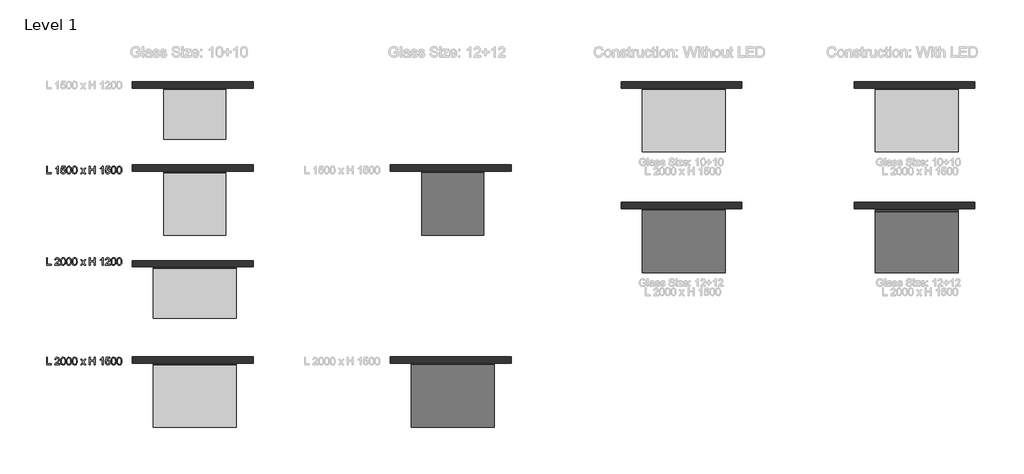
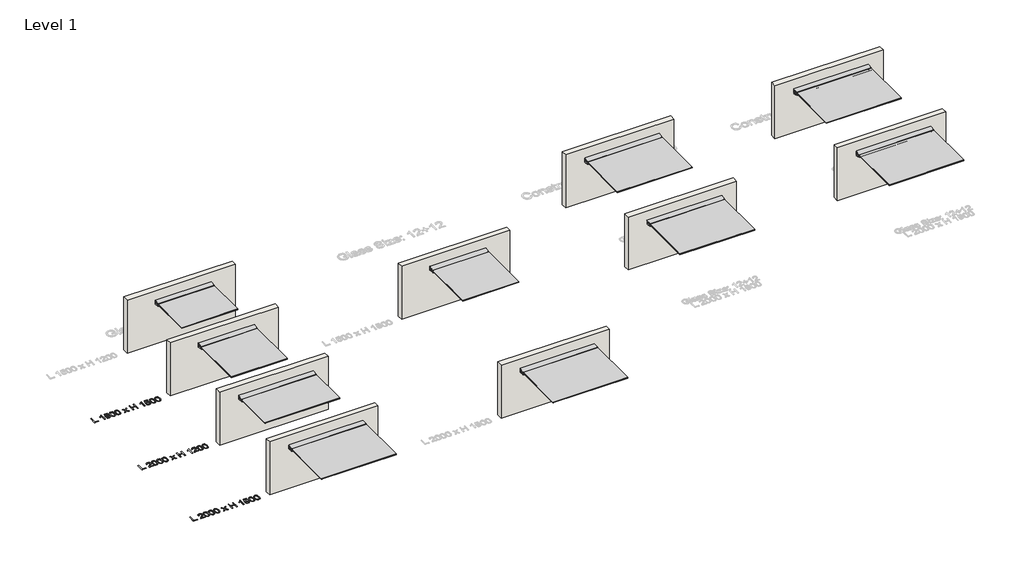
# One storey, part 1 of 7: 13 proxies, 10 walls.
"""IFC4 building model written with IfcOpenShell, lengths in millimetres."""

from ifc_helpers import new_model, si_unit, origin, origin_with_axes, place, context, project, spatial, polyline, outline, extrude, transform, mapped, element, save
from components import glass_10_10_9a443d2b, glass_10_10_5fec30e6, glass_10_10_ab900773, glass_10_10_d606f08f, glass_10_10_led_cbf4bd5c, glass_12_12_79b85a7c, glass_12_12_1987979f, glass_12_12_led_b576f13a

model = new_model("IFC4")

# Units and contexts
model_context = context("Model", 3, world=origin())
ifc_project = project(units=[si_unit("LENGTHUNIT", "METRE", prefix="MILLI")], contexts=[model_context])

# Site, building, storey
site = spatial("IfcSite", under=ifc_project)
building = spatial("IfcBuilding", under=site)
storey = spatial("IfcBuildingStorey", under=building, Name="Level 1", Elevation=0.0)

# Proxies
placement = place(None, origin())
element("IfcBuildingElementProxy", 1, Name="600mm Arial 3", ObjectType="600mm Arial 3", at=placement, inside=storey, context=model_context, shape_type="SweptSolid", body=[
    extrude(outline(polyline([(2272.1620309, -1499.2688788), (2272.1620309, -1318.4475205), (2294.7647007, -1318.4475205), (2294.7647007, -1476.666209), (2385.1753798, -1476.666209), (2385.1753798, -1499.2688788), (2272.1620309, -1499.2688788)])), origin_with_axes(), (0.0, 0.0, 1.0), 5.0),
    extrude(outline(polyline([(2557.5207369, -1499.2688788), (2534.9180672, -1499.2688788), (2534.9180672, -1358.3553594), (2513.507335, -1373.6077469), (2489.7127276, -1385.0194464), (2489.7127276, -1363.6528601), (2522.8441801, -1342.507003), (2542.9526099, -1318.4475205), (2557.5207369, -1318.4475205), (2557.5207369, -1499.2688788)])), origin_with_axes(), (0.0, 0.0, 1.0), 5.0),
    extrude(outline(polyline([(2611.2020777, -1451.2382055), (2633.8047475, -1448.4128718), (2637.9544564, -1461.9821992), (2645.194374, -1471.6998021), (2655.4913911, -1477.5436076), (2668.8123981, -1479.4915427), (2685.0139212, -1476.7820918), (2697.154027, -1468.6537392), (2704.7360749, -1456.0445838), (2707.2634243, -1439.8927248), (2704.8961036, -1424.6844831), (2697.7941417, -1413.0520544), (2685.9023562, -1405.6686628), (2669.1655648, -1403.2075322), (2649.32201, -1407.1365119), (2636.6300812, -1417.3342008), (2614.0274114, -1414.5088671), (2633.8047475, -1321.2728543), (2721.3900929, -1321.2728543), (2721.3900929, -1343.875524), (2652.081125, -1343.875524), (2642.3690403, -1393.6720309), (2658.5153811, -1383.8716546), (2675.434274, -1380.6048624), (2696.5580582, -1384.6552432), (2714.1060294, -1396.8063855), (2725.9260779, -1415.3255651), (2729.866094, -1438.4800579), (2726.3233904, -1461.0827277), (2715.6952796, -1480.4186054), (2695.3440476, -1496.6753107), (2668.7241064, -1502.0942125), (2646.5242674, -1498.6122094), (2628.8383405, -1488.1662002), (2616.7147894, -1471.9701953), (2611.2020777, -1451.2382055)])), origin_with_axes(), (0.0, 0.0, 1.0), 5.0),
    extrude(outline(polyline([(2749.6434301, -1410.3150124), (2751.3044173, -1381.3718964), (2756.2873789, -1358.2891406), (2764.5426509, -1340.7135783), (2776.0205692, -1328.2920427), (2790.8039071, -1320.9086511), (2808.9754383, -1318.4475205), (2835.3746503, -1324.2747713), (2845.8041048, -1331.3877697), (2853.6068819, -1341.0722632), (2864.2018834, -1367.8246419), (2868.3074465, -1410.3150124), (2866.6630139, -1439.0925814), (2861.7297164, -1462.1201549), (2853.5241085, -1479.7122719), (2842.0627449, -1492.1834716), (2827.2462976, -1499.6165273), (2808.9754383, -1502.0942125), (2785.4898517, -1497.7899932), (2767.6549326, -1484.8773351), (2759.7749002, -1471.2611028), (2754.1463057, -1454.2953049), (2749.6434301, -1410.3150124)]), holes=[polyline([(2772.2460999, -1410.2708665), (2774.8948502, -1445.824822), (2782.8411013, -1466.4023014), (2794.6721863, -1476.2192324), (2808.9754383, -1479.4915427), (2823.2786903, -1476.2081959), (2835.1097752, -1466.3581555), (2843.0560263, -1445.7696397), (2845.7047767, -1410.2708665), (2843.144318, -1375.5170544), (2835.4629419, -1354.7795464), (2823.6539299, -1344.4825293), (2808.7105632, -1341.0501903), (2794.5618217, -1344.0741803), (2783.1942681, -1353.1461503), (2774.9831419, -1375.1749242), (2772.2460999, -1410.2708665)])]), origin_with_axes(), (0.0, 0.0, 1.0), 5.0),
    extrude(outline(polyline([(2888.0847825, -1410.3150124), (2889.7457697, -1381.3718964), (2894.7287314, -1358.2891406), (2902.9840033, -1340.7135783), (2914.4619216, -1328.2920427), (2929.2452596, -1320.9086511), (2947.4167907, -1318.4475205), (2973.8160027, -1324.2747713), (2984.2454572, -1331.3877697), (2992.0482344, -1341.0722632), (3002.6432358, -1367.8246419), (3006.7487989, -1410.3150124), (3005.1043664, -1439.0925814), (3000.1710688, -1462.1201549), (2991.9654609, -1479.7122719), (2980.5040974, -1492.1834716), (2965.68765, -1499.6165273), (2947.4167907, -1502.0942125), (2923.9312041, -1497.7899932), (2906.096285, -1484.8773351), (2898.2162527, -1471.2611028), (2892.5876581, -1454.2953049), (2888.0847825, -1410.3150124)]), holes=[polyline([(2910.6874523, -1410.2708665), (2913.3362027, -1445.824822), (2921.2824538, -1466.4023014), (2933.1135387, -1476.2192324), (2947.4167907, -1479.4915427), (2961.7200427, -1476.2081959), (2973.5511276, -1466.3581555), (2981.4973787, -1445.7696397), (2984.1461291, -1410.2708665), (2981.5856704, -1375.5170544), (2973.9042944, -1354.7795464), (2962.0952823, -1344.4825293), (2947.1519157, -1341.0501903), (2933.0031741, -1344.0741803), (2921.6356205, -1353.1461503), (2913.4244944, -1375.1749242), (2910.6874523, -1410.2708665)])]), origin_with_axes(), (0.0, 0.0, 1.0), 5.0),
    extrude(outline(polyline([(3088.6834769, -1499.2688788), (3136.9790252, -1432.4762238), (3091.5088106, -1366.4781938), (3118.614356, -1366.4781938), (3140.5548382, -1398.307344), (3150.8408188, -1413.2727836), (3159.7582783, -1401.0002402), (3184.7448234, -1366.4781938), (3211.9386605, -1366.4781938), (3164.1728623, -1432.5203696), (3210.1728269, -1499.2688788), (3183.0231357, -1499.2688788), (3155.2995485, -1459.0961649), (3150.2669228, -1451.7238097), (3115.8773139, -1499.2688788), (3088.6834769, -1499.2688788)])), origin_with_axes(), (0.0, 0.0, 1.0), 5.0),
    extrude(outline(polyline([(3303.4088398, -1499.2688788), (3303.4088398, -1318.4475205), (3326.0115096, -1318.4475205), (3326.0115096, -1391.9061973), (3422.0728562, -1391.9061973), (3422.0728562, -1318.4475205), (3444.6755259, -1318.4475205), (3444.6755259, -1499.2688788), (3422.0728562, -1499.2688788), (3422.0728562, -1414.5088671), (3326.0115096, -1414.5088671), (3326.0115096, -1499.2688788), (3303.4088398, -1499.2688788)])), origin_with_axes(), (0.0, 0.0, 1.0), 5.0),
    extrude(outline(polyline([(3631.1475517, -1499.2688788), (3608.5448819, -1499.2688788), (3608.5448819, -1358.3553594), (3587.1341498, -1373.6077469), (3563.3395423, -1385.0194464), (3563.3395423, -1363.6528601), (3596.4709948, -1342.507003), (3616.5794247, -1318.4475205), (3631.1475517, -1318.4475205), (3631.1475517, -1499.2688788)])), origin_with_axes(), (0.0, 0.0, 1.0), 5.0),
    extrude(outline(polyline([(3684.8288924, -1451.2382055), (3707.4315622, -1448.4128718), (3711.5812711, -1461.9821992), (3718.8211888, -1471.6998021), (3729.1182058, -1477.5436076), (3742.4392128, -1479.4915427), (3758.6407359, -1476.7820918), (3770.7808418, -1468.6537392), (3778.3628897, -1456.0445838), (3780.890239, -1439.8927248), (3778.5229183, -1424.6844831), (3771.4209564, -1413.0520544), (3759.5291709, -1405.6686628), (3742.7923796, -1403.2075322), (3722.9488247, -1407.1365119), (3710.2568959, -1417.3342008), (3687.6542261, -1414.5088671), (3707.4315622, -1321.2728543), (3795.0169076, -1321.2728543), (3795.0169076, -1343.875524), (3725.7079397, -1343.875524), (3715.995855, -1393.6720309), (3732.1421958, -1383.8716546), (3749.0610888, -1380.6048624), (3770.1848729, -1384.6552432), (3787.7328441, -1396.8063855), (3799.5528926, -1415.3255651), (3803.4929088, -1438.4800579), (3799.9502051, -1461.0827277), (3789.3220943, -1480.4186054), (3768.9708623, -1496.6753107), (3742.3509212, -1502.0942125), (3720.1510822, -1498.6122094), (3702.4651552, -1488.1662002), (3690.3416041, -1471.9701953), (3684.8288924, -1451.2382055)])), origin_with_axes(), (0.0, 0.0, 1.0), 5.0),
    extrude(outline(polyline([(3823.2702448, -1410.3150124), (3824.931232, -1381.3718964), (3829.9141937, -1358.2891406), (3838.1694656, -1340.7135783), (3849.6473839, -1328.2920427), (3864.4307219, -1320.9086511), (3882.602253, -1318.4475205), (3909.001465, -1324.2747713), (3919.4309195, -1331.3877697), (3927.2336967, -1341.0722632), (3937.8286981, -1367.8246419), (3941.9342612, -1410.3150124), (3940.2898287, -1439.0925814), (3935.3565311, -1462.1201549), (3927.1509232, -1479.7122719), (3915.6895597, -1492.1834716), (3900.8731123, -1499.6165273), (3882.602253, -1502.0942125), (3859.1166664, -1497.7899932), (3841.2817473, -1484.8773351), (3833.401715, -1471.2611028), (3827.7731204, -1454.2953049), (3823.2702448, -1410.3150124)]), holes=[polyline([(3845.8729146, -1410.2708665), (3848.521665, -1445.824822), (3856.4679161, -1466.4023014), (3868.299001, -1476.2192324), (3882.602253, -1479.4915427), (3896.905505, -1476.2081959), (3908.7365899, -1466.3581555), (3916.682841, -1445.7696397), (3919.3315914, -1410.2708665), (3916.7711327, -1375.5170544), (3909.0897567, -1354.7795464), (3897.2807446, -1344.4825293), (3882.337378, -1341.0501903), (3868.1886364, -1344.0741803), (3856.8210828, -1353.1461503), (3848.6099567, -1375.1749242), (3845.8729146, -1410.2708665)])]), origin_with_axes(), (0.0, 0.0, 1.0), 5.0),
    extrude(outline(polyline([(3961.7115972, -1410.3150124), (3963.3725845, -1381.3718964), (3968.3555461, -1358.2891406), (3976.6108181, -1340.7135783), (3988.0887363, -1328.2920427), (4002.8720743, -1320.9086511), (4021.0436054, -1318.4475205), (4047.4428174, -1324.2747713), (4057.872272, -1331.3877697), (4065.6750491, -1341.0722632), (4076.2700505, -1367.8246419), (4080.3756136, -1410.3150124), (4078.7311811, -1439.0925814), (4073.7978835, -1462.1201549), (4065.5922756, -1479.7122719), (4054.1309121, -1492.1834716), (4039.3144647, -1499.6165273), (4021.0436054, -1502.0942125), (3997.5580189, -1497.7899932), (3979.7230997, -1484.8773351), (3971.8430674, -1471.2611028), (3966.2144729, -1454.2953049), (3961.7115972, -1410.3150124)]), holes=[polyline([(3984.314267, -1410.2708665), (3986.9630174, -1445.824822), (3994.9092685, -1466.4023014), (4006.7403535, -1476.2192324), (4021.0436054, -1479.4915427), (4035.3468574, -1476.2081959), (4047.1779424, -1466.3581555), (4055.1241935, -1445.7696397), (4057.7729438, -1410.2708665), (4055.2124851, -1375.5170544), (4047.5311091, -1354.7795464), (4035.722097, -1344.4825293), (4020.7787304, -1341.0501903), (4006.6299889, -1344.0741803), (3995.2624352, -1353.1461503), (3987.0513091, -1375.1749242), (3984.314267, -1410.2708665)])]), origin_with_axes(), (0.0, 0.0, 1.0), 5.0),
])
element("IfcBuildingElementProxy", 2, Name="600mm Arial 3", ObjectType="600mm Arial 3", at=placement, inside=storey, context=model_context, shape_type="SweptSolid", body=[
    extrude(outline(polyline([(2272.1620309, -3699.2687729), (2272.1620309, -3518.4474146), (2294.7647007, -3518.4474146), (2294.7647007, -3676.6661031), (2385.1753798, -3676.6661031), (2385.1753798, -3699.2687729), (2272.1620309, -3699.2687729)])), origin_with_axes(), (0.0, 0.0, 1.0), 5.0),
    extrude(outline(polyline([(2588.5994079, -3676.6661031), (2588.5994079, -3699.2687729), (2469.9353915, -3699.2687729), (2472.3634127, -3683.6852916), (2486.1148417, -3659.6920278), (2514.4343977, -3633.4914721), (2553.4372468, -3595.8350711), (2560.737865, -3582.8561943), (2563.1714044, -3570.2304842), (2560.8703025, -3558.9125947), (2553.9669969, -3549.5040126), (2543.3554407, -3543.1635664), (2529.9295873, -3541.0500844), (2515.8305098, -3543.1139024), (2504.8768234, -3549.3053564), (2497.8079709, -3559.1388421), (2495.363395, -3572.1287553), (2472.7607252, -3569.3034216), (2478.2403276, -3547.4401946), (2490.0879672, -3531.4704372), (2507.6856025, -3521.7031703), (2530.4151915, -3518.4474146), (2553.3103275, -3522.0673734), (2570.8748534, -3532.9272499), (2582.049269, -3549.1508459), (2585.7740742, -3568.8619632), (2581.7568028, -3590.2947683), (2568.4026864, -3612.4559796), (2536.0217131, -3643.424286), (2510.0198137, -3665.1661119), (2499.8221248, -3676.6661031), (2588.5994079, -3676.6661031)])), origin_with_axes(), (0.0, 0.0, 1.0), 5.0),
    extrude(outline(polyline([(2611.2020777, -3610.3149064), (2612.8630649, -3581.3717905), (2617.8460265, -3558.2890347), (2626.1012985, -3540.7134724), (2637.5792167, -3528.2919368), (2652.3625547, -3520.9085451), (2670.5340859, -3518.4474146), (2696.9332978, -3524.2746654), (2707.3627524, -3531.3876638), (2715.1655295, -3541.0721573), (2725.760531, -3567.824536), (2729.866094, -3610.3149064), (2728.2216615, -3639.0924755), (2723.288364, -3662.120049), (2715.0827561, -3679.712166), (2703.6213925, -3692.1833656), (2688.8049451, -3699.6164214), (2670.5340859, -3702.0941066), (2647.0484993, -3697.7898873), (2629.2135802, -3684.8772292), (2621.3335478, -3671.2609969), (2615.7049533, -3654.295199), (2611.2020777, -3610.3149064)]), holes=[polyline([(2633.8047475, -3610.2707606), (2636.4534978, -3645.824716), (2644.3997489, -3666.4021954), (2656.2308339, -3676.2191265), (2670.5340859, -3679.4914368), (2684.8373378, -3676.20809), (2696.6684228, -3666.3580496), (2704.6146739, -3645.7695337), (2707.2634243, -3610.2707606), (2704.7029656, -3575.5169485), (2697.0215895, -3554.7794404), (2685.2125775, -3544.4824234), (2670.2692108, -3541.0500844), (2656.1204693, -3544.0740744), (2644.7529156, -3553.1460444), (2636.5417895, -3575.1748183), (2633.8047475, -3610.2707606)])]), origin_with_axes(), (0.0, 0.0, 1.0), 5.0),
    extrude(outline(polyline([(2749.6434301, -3610.3149064), (2751.3044173, -3581.3717905), (2756.2873789, -3558.2890347), (2764.5426509, -3540.7134724), (2776.0205692, -3528.2919368), (2790.8039071, -3520.9085451), (2808.9754383, -3518.4474146), (2835.3746503, -3524.2746654), (2845.8041048, -3531.3876638), (2853.6068819, -3541.0721573), (2864.2018834, -3567.824536), (2868.3074465, -3610.3149064), (2866.6630139, -3639.0924755), (2861.7297164, -3662.120049), (2853.5241085, -3679.712166), (2842.0627449, -3692.1833656), (2827.2462976, -3699.6164214), (2808.9754383, -3702.0941066), (2785.4898517, -3697.7898873), (2767.6549326, -3684.8772292), (2759.7749002, -3671.2609969), (2754.1463057, -3654.295199), (2749.6434301, -3610.3149064)]), holes=[polyline([(2772.2460999, -3610.2707606), (2774.8948502, -3645.824716), (2782.8411013, -3666.4021954), (2794.6721863, -3676.2191265), (2808.9754383, -3679.4914368), (2823.2786903, -3676.20809), (2835.1097752, -3666.3580496), (2843.0560263, -3645.7695337), (2845.7047767, -3610.2707606), (2843.144318, -3575.5169485), (2835.4629419, -3554.7794404), (2823.6539299, -3544.4824234), (2808.7105632, -3541.0500844), (2794.5618217, -3544.0740744), (2783.1942681, -3553.1460444), (2774.9831419, -3575.1748183), (2772.2460999, -3610.2707606)])]), origin_with_axes(), (0.0, 0.0, 1.0), 5.0),
    extrude(outline(polyline([(2888.0847825, -3610.3149064), (2889.7457697, -3581.3717905), (2894.7287314, -3558.2890347), (2902.9840033, -3540.7134724), (2914.4619216, -3528.2919368), (2929.2452596, -3520.9085451), (2947.4167907, -3518.4474146), (2973.8160027, -3524.2746654), (2984.2454572, -3531.3876638), (2992.0482344, -3541.0721573), (3002.6432358, -3567.824536), (3006.7487989, -3610.3149064), (3005.1043664, -3639.0924755), (3000.1710688, -3662.120049), (2991.9654609, -3679.712166), (2980.5040974, -3692.1833656), (2965.68765, -3699.6164214), (2947.4167907, -3702.0941066), (2923.9312041, -3697.7898873), (2906.096285, -3684.8772292), (2898.2162527, -3671.2609969), (2892.5876581, -3654.295199), (2888.0847825, -3610.3149064)]), holes=[polyline([(2910.6874523, -3610.2707606), (2913.3362027, -3645.824716), (2921.2824538, -3666.4021954), (2933.1135387, -3676.2191265), (2947.4167907, -3679.4914368), (2961.7200427, -3676.20809), (2973.5511276, -3666.3580496), (2981.4973787, -3645.7695337), (2984.1461291, -3610.2707606), (2981.5856704, -3575.5169485), (2973.9042944, -3554.7794404), (2962.0952823, -3544.4824234), (2947.1519157, -3541.0500844), (2933.0031741, -3544.0740744), (2921.6356205, -3553.1460444), (2913.4244944, -3575.1748183), (2910.6874523, -3610.2707606)])]), origin_with_axes(), (0.0, 0.0, 1.0), 5.0),
    extrude(outline(polyline([(3088.6834769, -3699.2687729), (3136.9790252, -3632.4761178), (3091.5088106, -3566.4780879), (3118.614356, -3566.4780879), (3140.5548382, -3598.3072381), (3150.8408188, -3613.2726777), (3159.7582783, -3601.0001343), (3184.7448234, -3566.4780879), (3211.9386605, -3566.4780879), (3164.1728623, -3632.5202637), (3210.1728269, -3699.2687729), (3183.0231357, -3699.2687729), (3155.2995485, -3659.096059), (3150.2669228, -3651.7237038), (3115.8773139, -3699.2687729), (3088.6834769, -3699.2687729)])), origin_with_axes(), (0.0, 0.0, 1.0), 5.0),
    extrude(outline(polyline([(3303.4088398, -3699.2687729), (3303.4088398, -3518.4474146), (3326.0115096, -3518.4474146), (3326.0115096, -3591.9060914), (3422.0728562, -3591.9060914), (3422.0728562, -3518.4474146), (3444.6755259, -3518.4474146), (3444.6755259, -3699.2687729), (3422.0728562, -3699.2687729), (3422.0728562, -3614.5087612), (3326.0115096, -3614.5087612), (3326.0115096, -3699.2687729), (3303.4088398, -3699.2687729)])), origin_with_axes(), (0.0, 0.0, 1.0), 5.0),
    extrude(outline(polyline([(3631.1475517, -3699.2687729), (3608.5448819, -3699.2687729), (3608.5448819, -3558.3552534), (3587.1341498, -3573.607641), (3563.3395423, -3585.0193404), (3563.3395423, -3563.6527542), (3596.4709948, -3542.5068971), (3616.5794247, -3518.4474146), (3631.1475517, -3518.4474146), (3631.1475517, -3699.2687729)])), origin_with_axes(), (0.0, 0.0, 1.0), 5.0),
    extrude(outline(polyline([(3800.667575, -3676.6661031), (3800.667575, -3699.2687729), (3682.0035587, -3699.2687729), (3684.4315798, -3683.6852916), (3698.1830088, -3659.6920278), (3726.5025648, -3633.4914721), (3765.5054139, -3595.8350711), (3772.8060321, -3582.8561943), (3775.2395715, -3570.2304842), (3772.9384697, -3558.9125947), (3766.035164, -3549.5040126), (3755.4236079, -3543.1635664), (3741.9977544, -3541.0500844), (3727.898677, -3543.1139024), (3716.9449906, -3549.3053564), (3709.876138, -3559.1388421), (3707.4315622, -3572.1287553), (3684.8288924, -3569.3034216), (3690.3084947, -3547.4401946), (3702.1561344, -3531.4704372), (3719.7537696, -3521.7031703), (3742.4833587, -3518.4474146), (3765.3784947, -3522.0673734), (3782.9430205, -3532.9272499), (3794.1174361, -3549.1508459), (3797.8422413, -3568.8619632), (3793.8249699, -3590.2947683), (3780.4708535, -3612.4559796), (3748.0898803, -3643.424286), (3722.0879809, -3665.1661119), (3711.890292, -3676.6661031), (3800.667575, -3676.6661031)])), origin_with_axes(), (0.0, 0.0, 1.0), 5.0),
    extrude(outline(polyline([(3823.2702448, -3610.3149064), (3824.931232, -3581.3717905), (3829.9141937, -3558.2890347), (3838.1694656, -3540.7134724), (3849.6473839, -3528.2919368), (3864.4307219, -3520.9085451), (3882.602253, -3518.4474146), (3909.001465, -3524.2746654), (3919.4309195, -3531.3876638), (3927.2336967, -3541.0721573), (3937.8286981, -3567.824536), (3941.9342612, -3610.3149064), (3940.2898287, -3639.0924755), (3935.3565311, -3662.120049), (3927.1509232, -3679.712166), (3915.6895597, -3692.1833656), (3900.8731123, -3699.6164214), (3882.602253, -3702.0941066), (3859.1166664, -3697.7898873), (3841.2817473, -3684.8772292), (3833.401715, -3671.2609969), (3827.7731204, -3654.295199), (3823.2702448, -3610.3149064)]), holes=[polyline([(3845.8729146, -3610.2707606), (3848.521665, -3645.824716), (3856.4679161, -3666.4021954), (3868.299001, -3676.2191265), (3882.602253, -3679.4914368), (3896.905505, -3676.20809), (3908.7365899, -3666.3580496), (3916.682841, -3645.7695337), (3919.3315914, -3610.2707606), (3916.7711327, -3575.5169485), (3909.0897567, -3554.7794404), (3897.2807446, -3544.4824234), (3882.337378, -3541.0500844), (3868.1886364, -3544.0740744), (3856.8210828, -3553.1460444), (3848.6099567, -3575.1748183), (3845.8729146, -3610.2707606)])]), origin_with_axes(), (0.0, 0.0, 1.0), 5.0),
    extrude(outline(polyline([(3961.7115972, -3610.3149064), (3963.3725845, -3581.3717905), (3968.3555461, -3558.2890347), (3976.6108181, -3540.7134724), (3988.0887363, -3528.2919368), (4002.8720743, -3520.9085451), (4021.0436054, -3518.4474146), (4047.4428174, -3524.2746654), (4057.872272, -3531.3876638), (4065.6750491, -3541.0721573), (4076.2700505, -3567.824536), (4080.3756136, -3610.3149064), (4078.7311811, -3639.0924755), (4073.7978835, -3662.120049), (4065.5922756, -3679.712166), (4054.1309121, -3692.1833656), (4039.3144647, -3699.6164214), (4021.0436054, -3702.0941066), (3997.5580189, -3697.7898873), (3979.7230997, -3684.8772292), (3971.8430674, -3671.2609969), (3966.2144729, -3654.295199), (3961.7115972, -3610.3149064)]), holes=[polyline([(3984.314267, -3610.2707606), (3986.9630174, -3645.824716), (3994.9092685, -3666.4021954), (4006.7403535, -3676.2191265), (4021.0436054, -3679.4914368), (4035.3468574, -3676.20809), (4047.1779424, -3666.3580496), (4055.1241935, -3645.7695337), (4057.7729438, -3610.2707606), (4055.2124851, -3575.5169485), (4047.5311091, -3554.7794404), (4035.722097, -3544.4824234), (4020.7787304, -3541.0500844), (4006.6299889, -3544.0740744), (3995.2624352, -3553.1460444), (3987.0513091, -3575.1748183), (3984.314267, -3610.2707606)])]), origin_with_axes(), (0.0, 0.0, 1.0), 5.0),
])
element("IfcBuildingElementProxy", 3, Name="600mm Arial 3", ObjectType="600mm Arial 3", at=placement, inside=storey, context=model_context, shape_type="SweptSolid", body=[
    extrude(outline(polyline([(2272.1620309, -6094.2687729), (2272.1620309, -5913.4474146), (2294.7647007, -5913.4474146), (2294.7647007, -6071.6661031), (2385.1753798, -6071.6661031), (2385.1753798, -6094.2687729), (2272.1620309, -6094.2687729)])), origin_with_axes(), (0.0, 0.0, 1.0), 5.0),
    extrude(outline(polyline([(2588.5994079, -6071.6661031), (2588.5994079, -6094.2687729), (2469.9353915, -6094.2687729), (2472.3634127, -6078.6852916), (2486.1148417, -6054.6920278), (2514.4343977, -6028.4914721), (2553.4372468, -5990.8350711), (2560.737865, -5977.8561943), (2563.1714044, -5965.2304842), (2560.8703025, -5953.9125947), (2553.9669969, -5944.5040126), (2543.3554407, -5938.1635664), (2529.9295873, -5936.0500844), (2515.8305098, -5938.1139024), (2504.8768234, -5944.3053564), (2497.8079709, -5954.1388421), (2495.363395, -5967.1287553), (2472.7607252, -5964.3034216), (2478.2403276, -5942.4401946), (2490.0879672, -5926.4704372), (2507.6856025, -5916.7031703), (2530.4151915, -5913.4474146), (2553.3103275, -5917.0673734), (2570.8748534, -5927.9272499), (2582.049269, -5944.1508459), (2585.7740742, -5963.8619632), (2581.7568028, -5985.2947683), (2568.4026864, -6007.4559796), (2536.0217131, -6038.424286), (2510.0198137, -6060.1661119), (2499.8221248, -6071.6661031), (2588.5994079, -6071.6661031)])), origin_with_axes(), (0.0, 0.0, 1.0), 5.0),
    extrude(outline(polyline([(2611.2020777, -6005.3149064), (2612.8630649, -5976.3717905), (2617.8460265, -5953.2890347), (2626.1012985, -5935.7134724), (2637.5792167, -5923.2919368), (2652.3625547, -5915.9085451), (2670.5340859, -5913.4474146), (2696.9332978, -5919.2746654), (2707.3627524, -5926.3876638), (2715.1655295, -5936.0721573), (2725.760531, -5962.824536), (2729.866094, -6005.3149064), (2728.2216615, -6034.0924755), (2723.288364, -6057.120049), (2715.0827561, -6074.712166), (2703.6213925, -6087.1833656), (2688.8049451, -6094.6164214), (2670.5340859, -6097.0941066), (2647.0484993, -6092.7898873), (2629.2135802, -6079.8772292), (2621.3335478, -6066.2609969), (2615.7049533, -6049.295199), (2611.2020777, -6005.3149064)]), holes=[polyline([(2633.8047475, -6005.2707606), (2636.4534978, -6040.824716), (2644.3997489, -6061.4021954), (2656.2308339, -6071.2191265), (2670.5340859, -6074.4914368), (2684.8373378, -6071.20809), (2696.6684228, -6061.3580496), (2704.6146739, -6040.7695337), (2707.2634243, -6005.2707606), (2704.7029656, -5970.5169485), (2697.0215895, -5949.7794404), (2685.2125775, -5939.4824234), (2670.2692108, -5936.0500844), (2656.1204693, -5939.0740744), (2644.7529156, -5948.1460444), (2636.5417895, -5970.1748183), (2633.8047475, -6005.2707606)])]), origin_with_axes(), (0.0, 0.0, 1.0), 5.0),
    extrude(outline(polyline([(2749.6434301, -6005.3149064), (2751.3044173, -5976.3717905), (2756.2873789, -5953.2890347), (2764.5426509, -5935.7134724), (2776.0205692, -5923.2919368), (2790.8039071, -5915.9085451), (2808.9754383, -5913.4474146), (2835.3746503, -5919.2746654), (2845.8041048, -5926.3876638), (2853.6068819, -5936.0721573), (2864.2018834, -5962.824536), (2868.3074465, -6005.3149064), (2866.6630139, -6034.0924755), (2861.7297164, -6057.120049), (2853.5241085, -6074.712166), (2842.0627449, -6087.1833656), (2827.2462976, -6094.6164214), (2808.9754383, -6097.0941066), (2785.4898517, -6092.7898873), (2767.6549326, -6079.8772292), (2759.7749002, -6066.2609969), (2754.1463057, -6049.295199), (2749.6434301, -6005.3149064)]), holes=[polyline([(2772.2460999, -6005.2707606), (2774.8948502, -6040.824716), (2782.8411013, -6061.4021954), (2794.6721863, -6071.2191265), (2808.9754383, -6074.4914368), (2823.2786903, -6071.20809), (2835.1097752, -6061.3580496), (2843.0560263, -6040.7695337), (2845.7047767, -6005.2707606), (2843.144318, -5970.5169485), (2835.4629419, -5949.7794404), (2823.6539299, -5939.4824234), (2808.7105632, -5936.0500844), (2794.5618217, -5939.0740744), (2783.1942681, -5948.1460444), (2774.9831419, -5970.1748183), (2772.2460999, -6005.2707606)])]), origin_with_axes(), (0.0, 0.0, 1.0), 5.0),
    extrude(outline(polyline([(2888.0847825, -6005.3149064), (2889.7457697, -5976.3717905), (2894.7287314, -5953.2890347), (2902.9840033, -5935.7134724), (2914.4619216, -5923.2919368), (2929.2452596, -5915.9085451), (2947.4167907, -5913.4474146), (2973.8160027, -5919.2746654), (2984.2454572, -5926.3876638), (2992.0482344, -5936.0721573), (3002.6432358, -5962.824536), (3006.7487989, -6005.3149064), (3005.1043664, -6034.0924755), (3000.1710688, -6057.120049), (2991.9654609, -6074.712166), (2980.5040974, -6087.1833656), (2965.68765, -6094.6164214), (2947.4167907, -6097.0941066), (2923.9312041, -6092.7898873), (2906.096285, -6079.8772292), (2898.2162527, -6066.2609969), (2892.5876581, -6049.295199), (2888.0847825, -6005.3149064)]), holes=[polyline([(2910.6874523, -6005.2707606), (2913.3362027, -6040.824716), (2921.2824538, -6061.4021954), (2933.1135387, -6071.2191265), (2947.4167907, -6074.4914368), (2961.7200427, -6071.20809), (2973.5511276, -6061.3580496), (2981.4973787, -6040.7695337), (2984.1461291, -6005.2707606), (2981.5856704, -5970.5169485), (2973.9042944, -5949.7794404), (2962.0952823, -5939.4824234), (2947.1519157, -5936.0500844), (2933.0031741, -5939.0740744), (2921.6356205, -5948.1460444), (2913.4244944, -5970.1748183), (2910.6874523, -6005.2707606)])]), origin_with_axes(), (0.0, 0.0, 1.0), 5.0),
    extrude(outline(polyline([(3088.6834769, -6094.2687729), (3136.9790252, -6027.4761178), (3091.5088106, -5961.4780879), (3118.614356, -5961.4780879), (3140.5548382, -5993.3072381), (3150.8408188, -6008.2726777), (3159.7582783, -5996.0001343), (3184.7448234, -5961.4780879), (3211.9386605, -5961.4780879), (3164.1728623, -6027.5202637), (3210.1728269, -6094.2687729), (3183.0231357, -6094.2687729), (3155.2995485, -6054.096059), (3150.2669228, -6046.7237038), (3115.8773139, -6094.2687729), (3088.6834769, -6094.2687729)])), origin_with_axes(), (0.0, 0.0, 1.0), 5.0),
    extrude(outline(polyline([(3303.4088398, -6094.2687729), (3303.4088398, -5913.4474146), (3326.0115096, -5913.4474146), (3326.0115096, -5986.9060914), (3422.0728562, -5986.9060914), (3422.0728562, -5913.4474146), (3444.6755259, -5913.4474146), (3444.6755259, -6094.2687729), (3422.0728562, -6094.2687729), (3422.0728562, -6009.5087612), (3326.0115096, -6009.5087612), (3326.0115096, -6094.2687729), (3303.4088398, -6094.2687729)])), origin_with_axes(), (0.0, 0.0, 1.0), 5.0),
    extrude(outline(polyline([(3631.1475517, -6094.2687729), (3608.5448819, -6094.2687729), (3608.5448819, -5953.3552534), (3587.1341498, -5968.607641), (3563.3395423, -5980.0193404), (3563.3395423, -5958.6527542), (3596.4709948, -5937.5068971), (3616.5794247, -5913.4474146), (3631.1475517, -5913.4474146), (3631.1475517, -6094.2687729)])), origin_with_axes(), (0.0, 0.0, 1.0), 5.0),
    extrude(outline(polyline([(3684.8288924, -6046.2380996), (3707.4315622, -6043.4127659), (3711.5812711, -6056.9820933), (3718.8211888, -6066.6996962), (3729.1182058, -6072.5435016), (3742.4392128, -6074.4914368), (3758.6407359, -6071.7819859), (3770.7808418, -6063.6536332), (3778.3628897, -6051.0444778), (3780.890239, -6034.8926188), (3778.5229183, -6019.6843772), (3771.4209564, -6008.0519485), (3759.5291709, -6000.6685568), (3742.7923796, -5998.2074263), (3722.9488247, -6002.136406), (3710.2568959, -6012.3340949), (3687.6542261, -6009.5087612), (3707.4315622, -5916.2727483), (3795.0169076, -5916.2727483), (3795.0169076, -5938.8754181), (3725.7079397, -5938.8754181), (3715.995855, -5988.671925), (3732.1421958, -5978.8715486), (3749.0610888, -5975.6047565), (3770.1848729, -5979.6551373), (3787.7328441, -5991.8062796), (3799.5528926, -6010.3254592), (3803.4929088, -6033.479952), (3799.9502051, -6056.0826218), (3789.3220943, -6075.4184994), (3768.9708623, -6091.6752048), (3742.3509212, -6097.0941066), (3720.1510822, -6093.6121035), (3702.4651552, -6083.1660943), (3690.3416041, -6066.9700894), (3684.8288924, -6046.2380996)])), origin_with_axes(), (0.0, 0.0, 1.0), 5.0),
    extrude(outline(polyline([(3823.2702448, -6005.3149064), (3824.931232, -5976.3717905), (3829.9141937, -5953.2890347), (3838.1694656, -5935.7134724), (3849.6473839, -5923.2919368), (3864.4307219, -5915.9085451), (3882.602253, -5913.4474146), (3909.001465, -5919.2746654), (3919.4309195, -5926.3876638), (3927.2336967, -5936.0721573), (3937.8286981, -5962.824536), (3941.9342612, -6005.3149064), (3940.2898287, -6034.0924755), (3935.3565311, -6057.120049), (3927.1509232, -6074.712166), (3915.6895597, -6087.1833656), (3900.8731123, -6094.6164214), (3882.602253, -6097.0941066), (3859.1166664, -6092.7898873), (3841.2817473, -6079.8772292), (3833.401715, -6066.2609969), (3827.7731204, -6049.295199), (3823.2702448, -6005.3149064)]), holes=[polyline([(3845.8729146, -6005.2707606), (3848.521665, -6040.824716), (3856.4679161, -6061.4021954), (3868.299001, -6071.2191265), (3882.602253, -6074.4914368), (3896.905505, -6071.20809), (3908.7365899, -6061.3580496), (3916.682841, -6040.7695337), (3919.3315914, -6005.2707606), (3916.7711327, -5970.5169485), (3909.0897567, -5949.7794404), (3897.2807446, -5939.4824234), (3882.337378, -5936.0500844), (3868.1886364, -5939.0740744), (3856.8210828, -5948.1460444), (3848.6099567, -5970.1748183), (3845.8729146, -6005.2707606)])]), origin_with_axes(), (0.0, 0.0, 1.0), 5.0),
    extrude(outline(polyline([(3961.7115972, -6005.3149064), (3963.3725845, -5976.3717905), (3968.3555461, -5953.2890347), (3976.6108181, -5935.7134724), (3988.0887363, -5923.2919368), (4002.8720743, -5915.9085451), (4021.0436054, -5913.4474146), (4047.4428174, -5919.2746654), (4057.872272, -5926.3876638), (4065.6750491, -5936.0721573), (4076.2700505, -5962.824536), (4080.3756136, -6005.3149064), (4078.7311811, -6034.0924755), (4073.7978835, -6057.120049), (4065.5922756, -6074.712166), (4054.1309121, -6087.1833656), (4039.3144647, -6094.6164214), (4021.0436054, -6097.0941066), (3997.5580189, -6092.7898873), (3979.7230997, -6079.8772292), (3971.8430674, -6066.2609969), (3966.2144729, -6049.295199), (3961.7115972, -6005.3149064)]), holes=[polyline([(3984.314267, -6005.2707606), (3986.9630174, -6040.824716), (3994.9092685, -6061.4021954), (4006.7403535, -6071.2191265), (4021.0436054, -6074.4914368), (4035.3468574, -6071.20809), (4047.1779424, -6061.3580496), (4055.1241935, -6040.7695337), (4057.7729438, -6005.2707606), (4055.2124851, -5970.5169485), (4047.5311091, -5949.7794404), (4035.722097, -5939.4824234), (4020.7787304, -5936.0500844), (4006.6299889, -5939.0740744), (3995.2624352, -5948.1460444), (3987.0513091, -5970.1748183), (3984.314267, -6005.2707606)])]), origin_with_axes(), (0.0, 0.0, 1.0), 5.0),
])
glass_10_10_shape = glass_10_10_9a443d2b(model_context)
element("IfcBuildingElementProxy", 4, Name="Construction_Slope-Glazing_Faraone_Linea-3-Maxi : Glass - 10+10", ObjectType="Construction_Slope-Glazing_Faraone_Linea-3-Maxi : Glass - 10+10", at=placement, inside=storey, context=model_context, shape_type="MappedRepresentation", body=[
    mapped(glass_10_10_shape, transform((5834.0895564, 558.4638702, 1180.0143575), x_axis=(1.0, 0.0, 0.0), y_axis=(0.0, 0.0, 1.0), z_axis=(0.0, -1.0, 0.0))),
])
glass_10_10_2_shape = glass_10_10_5fec30e6(model_context)
element("IfcBuildingElementProxy", 5, Name="Construction_Slope-Glazing_Faraone_Linea-3-Maxi : Glass - 10+10", ObjectType="Construction_Slope-Glazing_Faraone_Linea-3-Maxi : Glass - 10+10", at=placement, inside=storey, context=model_context, shape_type="MappedRepresentation", body=[
    mapped(glass_10_10_2_shape, transform((5834.0895564, -1441.5361298, 1180.0143575), x_axis=(1.0, 0.0, 0.0), y_axis=(0.0, 0.0, 1.0), z_axis=(0.0, -1.0, 0.0))),
])
glass_10_10_3_shape = glass_10_10_ab900773(model_context)
element("IfcBuildingElementProxy", 6, Name="Construction_Slope-Glazing_Faraone_Linea-3-Maxi : Glass - 10+10", ObjectType="Construction_Slope-Glazing_Faraone_Linea-3-Maxi : Glass - 10+10", at=placement, inside=storey, context=model_context, shape_type="MappedRepresentation", body=[
    mapped(glass_10_10_3_shape, transform((5834.0895564, -3741.5360239, 1180.0143575), x_axis=(1.0, 0.0, 0.0), y_axis=(0.0, 0.0, 1.0), z_axis=(0.0, -1.0, 0.0))),
])
glass_10_10_4_shape = glass_10_10_d606f08f(model_context)
element("IfcBuildingElementProxy", 7, Name="Construction_Slope-Glazing_Faraone_Linea-3-Maxi : Glass - 10+10", ObjectType="Construction_Slope-Glazing_Faraone_Linea-3-Maxi : Glass - 10+10", at=placement, inside=storey, context=model_context, shape_type="MappedRepresentation", body=[
    mapped(glass_10_10_4_shape, transform((5834.0895564, -6056.5360239, 1180.0143575), x_axis=(1.0, 0.0, 0.0), y_axis=(0.0, 0.0, 1.0), z_axis=(0.0, -1.0, 0.0))),
])
element("IfcBuildingElementProxy", 8, Name="Construction_Slope-Glazing_Faraone_Linea-3-Maxi : Glass - 10+10", ObjectType="Construction_Slope-Glazing_Faraone_Linea-3-Maxi : Glass - 10+10", at=placement, inside=storey, context=model_context, shape_type="MappedRepresentation", body=[
    mapped(glass_10_10_4_shape, transform((17582.1126304, 558.4638702, 1180.0143575), x_axis=(1.0, 0.0, 0.0), y_axis=(0.0, 0.0, 1.0), z_axis=(0.0, -1.0, 0.0))),
])
glass_10_10_led_shape = glass_10_10_led_cbf4bd5c(model_context)
element("IfcBuildingElementProxy", 9, Name="Construction_Slope-Glazing_Faraone_Linea-3-Maxi : Glass - 10+10 LED", ObjectType="Construction_Slope-Glazing_Faraone_Linea-3-Maxi : Glass - 10+10 LED", at=placement, inside=storey, context=model_context, shape_type="MappedRepresentation", body=[
    mapped(glass_10_10_led_shape, transform((23182.1126304, 558.4638702, 1180.0143575), x_axis=(1.0, 0.0, 0.0), y_axis=(0.0, 0.0, 1.0), z_axis=(0.0, -1.0, 0.0))),
])
glass_12_12_shape = glass_12_12_79b85a7c(model_context)
element("IfcBuildingElementProxy", 10, Name="Construction_Slope-Glazing_Faraone_Linea-3-Maxi : Glass - 12+12", ObjectType="Construction_Slope-Glazing_Faraone_Linea-3-Maxi : Glass - 12+12", at=placement, inside=storey, context=model_context, shape_type="MappedRepresentation", body=[
    mapped(glass_12_12_shape, transform((12034.0895564, -1441.5361298, 1180.0143575), x_axis=(1.0, 0.0, 0.0), y_axis=(0.0, 0.0, 1.0), z_axis=(0.0, -1.0, 0.0))),
])
glass_12_12_2_shape = glass_12_12_1987979f(model_context)
element("IfcBuildingElementProxy", 11, Name="Construction_Slope-Glazing_Faraone_Linea-3-Maxi : Glass - 12+12", ObjectType="Construction_Slope-Glazing_Faraone_Linea-3-Maxi : Glass - 12+12", at=placement, inside=storey, context=model_context, shape_type="MappedRepresentation", body=[
    mapped(glass_12_12_2_shape, transform((12034.0895564, -6056.5360239, 1180.0143575), x_axis=(1.0, 0.0, 0.0), y_axis=(0.0, 0.0, 1.0), z_axis=(0.0, -1.0, 0.0))),
])
element("IfcBuildingElementProxy", 12, Name="Construction_Slope-Glazing_Faraone_Linea-3-Maxi : Glass - 12+12", ObjectType="Construction_Slope-Glazing_Faraone_Linea-3-Maxi : Glass - 12+12", at=placement, inside=storey, context=model_context, shape_type="MappedRepresentation", body=[
    mapped(glass_12_12_2_shape, transform((17582.1126304, -2341.5361298, 1180.0143575), x_axis=(1.0, 0.0, 0.0), y_axis=(0.0, 0.0, 1.0), z_axis=(0.0, -1.0, 0.0))),
])
glass_12_12_led_shape = glass_12_12_led_b576f13a(model_context)
element("IfcBuildingElementProxy", 13, Name="Construction_Slope-Glazing_Faraone_Linea-3-Maxi : Glass - 12+12 LED", ObjectType="Construction_Slope-Glazing_Faraone_Linea-3-Maxi : Glass - 12+12 LED", at=placement, inside=storey, context=model_context, shape_type="MappedRepresentation", body=[
    mapped(glass_12_12_led_shape, transform((23182.1126304, -2341.5361298, 1180.0143575), x_axis=(1.0, 0.0, 0.0), y_axis=(0.0, 0.0, 1.0), z_axis=(0.0, -1.0, 0.0))),
])

# Walls
element("IfcWall", 14, ObjectType="Exterior - Brick on Mtl. Stud", at=placement, inside=storey, context=model_context, shape_type="SweptSolid", body=[
    extrude(outline(polyline([(7234.0895564, 558.4638702), (4334.0895564, 558.4638702), (4334.0895564, 710.4638702), (7234.0895564, 710.4638702), (7234.0895564, 558.4638702)])), origin_with_axes(), (0.0, 0.0, 1.0), 1500.0),
])
element("IfcWall", 15, ObjectType="Exterior - Brick on Mtl. Stud", at=placement, inside=storey, context=model_context, shape_type="SweptSolid", body=[
    extrude(outline(polyline([(7234.0895564, -1441.5361298), (4334.0895564, -1441.5361298), (4334.0895564, -1289.5361298), (7234.0895564, -1289.5361298), (7234.0895564, -1441.5361298)])), origin_with_axes(), (0.0, 0.0, 1.0), 1500.0),
])
element("IfcWall", 16, ObjectType="Exterior - Brick on Mtl. Stud", at=placement, inside=storey, context=model_context, shape_type="SweptSolid", body=[
    extrude(outline(polyline([(7234.0895564, -3741.5360239), (4334.0895564, -3741.5360239), (4334.0895564, -3589.5360239), (7234.0895564, -3589.5360239), (7234.0895564, -3741.5360239)])), origin_with_axes(), (0.0, 0.0, 1.0), 1500.0),
])
element("IfcWall", 17, ObjectType="Exterior - Brick on Mtl. Stud", at=placement, inside=storey, context=model_context, shape_type="SweptSolid", body=[
    extrude(outline(polyline([(7234.0895564, -6056.5360239), (4334.0895564, -6056.5360239), (4334.0895564, -5904.5360239), (7234.0895564, -5904.5360239), (7234.0895564, -6056.5360239)])), origin_with_axes(), (0.0, 0.0, 1.0), 1500.0),
])
element("IfcWall", 18, ObjectType="Exterior - Brick on Mtl. Stud", at=placement, inside=storey, context=model_context, shape_type="SweptSolid", body=[
    extrude(outline(polyline([(13434.0895564, -1441.5361298), (10534.0895564, -1441.5361298), (10534.0895564, -1289.5361298), (13434.0895564, -1289.5361298), (13434.0895564, -1441.5361298)])), origin_with_axes(), (0.0, 0.0, 1.0), 1500.0),
])
element("IfcWall", 19, ObjectType="Exterior - Brick on Mtl. Stud", at=placement, inside=storey, context=model_context, shape_type="SweptSolid", body=[
    extrude(outline(polyline([(13434.0895564, -6056.5360239), (10534.0895564, -6056.5360239), (10534.0895564, -5904.5360239), (13434.0895564, -5904.5360239), (13434.0895564, -6056.5360239)])), origin_with_axes(), (0.0, 0.0, 1.0), 1500.0),
])
element("IfcWall", 20, ObjectType="Exterior - Brick on Mtl. Stud", at=placement, inside=storey, context=model_context, shape_type="SweptSolid", body=[
    extrude(outline(polyline([(18982.1126304, 558.4638702), (16082.1126304, 558.4638702), (16082.1126304, 710.4638702), (18982.1126304, 710.4638702), (18982.1126304, 558.4638702)])), origin_with_axes(), (0.0, 0.0, 1.0), 1500.0),
])
element("IfcWall", 21, ObjectType="Exterior - Brick on Mtl. Stud", at=placement, inside=storey, context=model_context, shape_type="SweptSolid", body=[
    extrude(outline(polyline([(24582.1126304, 558.4638702), (21682.1126304, 558.4638702), (21682.1126304, 710.4638702), (24582.1126304, 710.4638702), (24582.1126304, 558.4638702)])), origin_with_axes(), (0.0, 0.0, 1.0), 1500.0),
])
element("IfcWall", 22, ObjectType="Exterior - Brick on Mtl. Stud", at=placement, inside=storey, context=model_context, shape_type="SweptSolid", body=[
    extrude(outline(polyline([(18982.1126304, -2341.5361298), (16082.1126304, -2341.5361298), (16082.1126304, -2189.5361298), (18982.1126304, -2189.5361298), (18982.1126304, -2341.5361298)])), origin_with_axes(), (0.0, 0.0, 1.0), 1500.0),
])
element("IfcWall", 23, ObjectType="Exterior - Brick on Mtl. Stud", at=placement, inside=storey, context=model_context, shape_type="SweptSolid", body=[
    extrude(outline(polyline([(24582.1126304, -2341.5361298), (21682.1126304, -2341.5361298), (21682.1126304, -2189.5361298), (24582.1126304, -2189.5361298), (24582.1126304, -2341.5361298)])), origin_with_axes(), (0.0, 0.0, 1.0), 1500.0),
])

save(model, "model.ifc")
